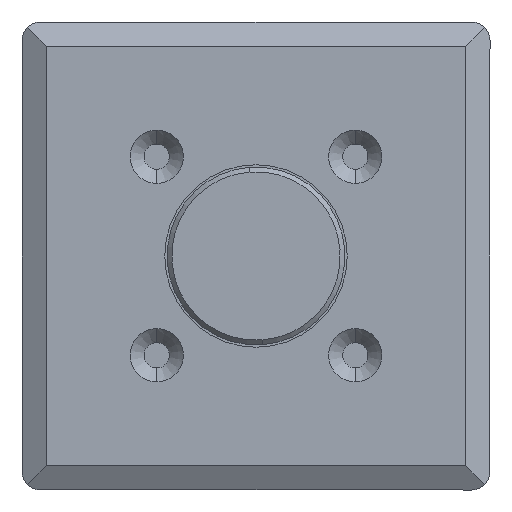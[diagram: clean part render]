
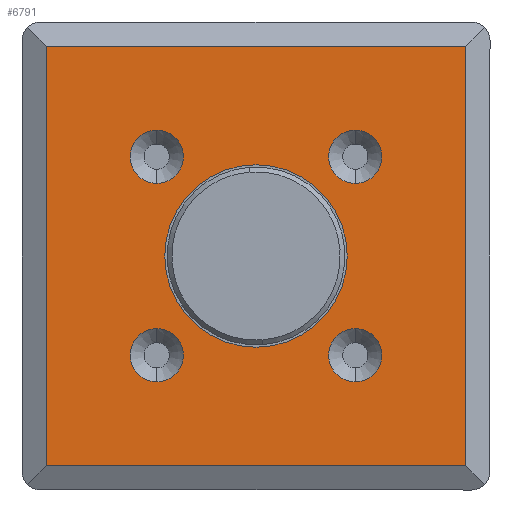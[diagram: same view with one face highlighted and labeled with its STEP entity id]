
A CAD part, left-side view. The second image highlights one B-rep face of the part: STEP entity #6791.
In plain terms, the highlighted planar face has unit normal (-1, 0, 0).
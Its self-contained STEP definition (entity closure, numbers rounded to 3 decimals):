
#44 = VERTEX_POINT ( 'NONE', #6518 ) ;
#362 = VERTEX_POINT ( 'NONE', #26629 ) ;
#421 = DIRECTION ( 'NONE',  ( -1., 0., 0. ) ) ;
#603 = ORIENTED_EDGE ( 'NONE', *, *, #11864, .T. ) ;
#822 = DIRECTION ( 'NONE',  ( 1., 0., 0. ) ) ;
#1482 = AXIS2_PLACEMENT_3D ( 'NONE', #26410, #28679, #26074 ) ;
#1865 = AXIS2_PLACEMENT_3D ( 'NONE', #23551, #11366, #5925 ) ;
#1917 = EDGE_CURVE ( 'NONE', #15085, #19606, #28254, .T. ) ;
#2414 = CARTESIAN_POINT ( 'NONE',  ( -22.8, 10.607, -10.607 ) ) ;
#2520 = ORIENTED_EDGE ( 'NONE', *, *, #20510, .F. ) ;
#2541 = EDGE_LOOP ( 'NONE', ( #32220, #17040, #3063, #4301 ) ) ;
#2597 = DIRECTION ( 'NONE',  ( -1., 0., 0. ) ) ;
#2844 = ORIENTED_EDGE ( 'NONE', *, *, #22571, .T. ) ;
#2878 = ORIENTED_EDGE ( 'NONE', *, *, #6986, .F. ) ;
#3063 = ORIENTED_EDGE ( 'NONE', *, *, #6604, .T. ) ;
#3207 = CARTESIAN_POINT ( 'NONE',  ( -22.8, -10.607, -13.457 ) ) ;
#3395 = CARTESIAN_POINT ( 'NONE',  ( -22.8, 10.607, 13.457 ) ) ;
#3622 = AXIS2_PLACEMENT_3D ( 'NONE', #26294, #8692, #28792 ) ;
#3958 = DIRECTION ( 'NONE',  ( 0., 0., -1. ) ) ;
#4174 = DIRECTION ( 'NONE',  ( 1., 0., 0. ) ) ;
#4301 = ORIENTED_EDGE ( 'NONE', *, *, #29338, .T. ) ;
#4390 = CARTESIAN_POINT ( 'NONE',  ( -22.8, 10.607, 7.757 ) ) ;
#4664 = DIRECTION ( 'NONE',  ( 0., 0., -1. ) ) ;
#4776 = LINE ( 'NONE', #10653, #23081 ) ;
#4998 = VERTEX_POINT ( 'NONE', #29672 ) ;
#5032 = CARTESIAN_POINT ( 'NONE',  ( -22.8, -22.402, 22.402 ) ) ;
#5441 = DIRECTION ( 'NONE',  ( 0., 0., -1. ) ) ;
#5604 = VERTEX_POINT ( 'NONE', #21056 ) ;
#5665 = EDGE_CURVE ( 'NONE', #18312, #29613, #26960, .T. ) ;
#5925 = DIRECTION ( 'NONE',  ( 0., 0., -1. ) ) ;
#6215 = DIRECTION ( 'NONE',  ( -1., 0., 0. ) ) ;
#6518 = CARTESIAN_POINT ( 'NONE',  ( -22.8, 0., 9.75 ) ) ;
#6568 = VERTEX_POINT ( 'NONE', #5032 ) ;
#6604 = EDGE_CURVE ( 'NONE', #6568, #8100, #4776, .T. ) ;
#6791 = ADVANCED_FACE ( 'NONE', ( #10248, #23480, #7907, #11010, #22714, #16456 ), #21126, .T. ) ;
#6986 = EDGE_CURVE ( 'NONE', #44, #29598, #7109, .T. ) ;
#7109 = CIRCLE ( 'NONE', #30290, 9.75 ) ;
#7629 = EDGE_LOOP ( 'NONE', ( #2844, #11804 ) ) ;
#7907 = FACE_BOUND ( 'NONE', #28592, .T. ) ;
#8100 = VERTEX_POINT ( 'NONE', #22134 ) ;
#8133 = DIRECTION ( 'NONE',  ( 0., 0., -1. ) ) ;
#8424 = CARTESIAN_POINT ( 'NONE',  ( -22.8, -10.607, -7.757 ) ) ;
#8582 = ORIENTED_EDGE ( 'NONE', *, *, #22521, .T. ) ;
#8692 = DIRECTION ( 'NONE',  ( 1., 0., 0. ) ) ;
#8833 = CARTESIAN_POINT ( 'NONE',  ( -22.8, -9.75, 0. ) ) ;
#9017 = DIRECTION ( 'NONE',  ( 1., 0., 0. ) ) ;
#9146 = LINE ( 'NONE', #20427, #16518 ) ;
#9931 = DIRECTION ( 'NONE',  ( 1., 0., 0. ) ) ;
#10248 = FACE_OUTER_BOUND ( 'NONE', #2541, .T. ) ;
#10608 = DIRECTION ( 'NONE',  ( 0., 0., -1. ) ) ;
#10653 = CARTESIAN_POINT ( 'NONE',  ( -22.8, -9.75, 22.402 ) ) ;
#11007 = CARTESIAN_POINT ( 'NONE',  ( -22.8, 22.402, -22.402 ) ) ;
#11010 = FACE_BOUND ( 'NONE', #7629, .T. ) ;
#11156 = VERTEX_POINT ( 'NONE', #3207 ) ;
#11161 = EDGE_CURVE ( 'NONE', #4998, #26610, #20613, .T. ) ;
#11366 = DIRECTION ( 'NONE',  ( 1., 0., 0. ) ) ;
#11432 = CARTESIAN_POINT ( 'NONE',  ( -22.8, -22.402, 0. ) ) ;
#11503 = DIRECTION ( 'NONE',  ( 0., 0., -1. ) ) ;
#11804 = ORIENTED_EDGE ( 'NONE', *, *, #12369, .T. ) ;
#11864 = EDGE_CURVE ( 'NONE', #5604, #362, #18374, .T. ) ;
#12369 = EDGE_CURVE ( 'NONE', #29516, #11156, #25330, .T. ) ;
#13103 = EDGE_CURVE ( 'NONE', #19606, #6568, #22623, .T. ) ;
#13839 = CARTESIAN_POINT ( 'NONE',  ( -22.8, 10.607, 10.607 ) ) ;
#14348 = CARTESIAN_POINT ( 'NONE',  ( -22.8, -22.402, -22.402 ) ) ;
#15085 = VERTEX_POINT ( 'NONE', #11007 ) ;
#15218 = AXIS2_PLACEMENT_3D ( 'NONE', #15237, #421, #5441 ) ;
#15237 = CARTESIAN_POINT ( 'NONE',  ( -22.8, 0., 0. ) ) ;
#15238 = DIRECTION ( 'NONE',  ( 0., 0., -1. ) ) ;
#15579 = AXIS2_PLACEMENT_3D ( 'NONE', #20547, #822, #10608 ) ;
#16456 = FACE_BOUND ( 'NONE', #17311, .T. ) ;
#16493 = AXIS2_PLACEMENT_3D ( 'NONE', #30967, #9017, #11503 ) ;
#16518 = VECTOR ( 'NONE', #25291, 1000. ) ;
#16716 = ORIENTED_EDGE ( 'NONE', *, *, #25014, .T. ) ;
#16749 = CIRCLE ( 'NONE', #16493, 2.85 ) ;
#17040 = ORIENTED_EDGE ( 'NONE', *, *, #13103, .T. ) ;
#17311 = EDGE_LOOP ( 'NONE', ( #2520, #2878 ) ) ;
#17399 = CARTESIAN_POINT ( 'NONE',  ( -22.8, 0., 0. ) ) ;
#18312 = VERTEX_POINT ( 'NONE', #3395 ) ;
#18374 = CIRCLE ( 'NONE', #21669, 2.85 ) ;
#18643 = ORIENTED_EDGE ( 'NONE', *, *, #5665, .T. ) ;
#18644 = CIRCLE ( 'NONE', #25075, 2.85 ) ;
#19111 = VECTOR ( 'NONE', #28822, 1000. ) ;
#19411 = CIRCLE ( 'NONE', #3622, 2.85 ) ;
#19606 = VERTEX_POINT ( 'NONE', #14348 ) ;
#20427 = CARTESIAN_POINT ( 'NONE',  ( -22.8, 22.402, 0. ) ) ;
#20510 = EDGE_CURVE ( 'NONE', #29598, #44, #27400, .T. ) ;
#20547 = CARTESIAN_POINT ( 'NONE',  ( -22.8, 10.607, -10.607 ) ) ;
#20613 = CIRCLE ( 'NONE', #15579, 2.85 ) ;
#20691 = DIRECTION ( 'NONE',  ( 0., 1., 0. ) ) ;
#21056 = CARTESIAN_POINT ( 'NONE',  ( -22.8, -10.607, 13.457 ) ) ;
#21126 = PLANE ( 'NONE',  #24694 ) ;
#21240 = DIRECTION ( 'NONE',  ( 0., 0., -1. ) ) ;
#21669 = AXIS2_PLACEMENT_3D ( 'NONE', #25414, #22733, #8133 ) ;
#21960 = ORIENTED_EDGE ( 'NONE', *, *, #11161, .T. ) ;
#22134 = CARTESIAN_POINT ( 'NONE',  ( -22.8, 22.402, 22.402 ) ) ;
#22521 = EDGE_CURVE ( 'NONE', #29613, #18312, #26473, .T. ) ;
#22571 = EDGE_CURVE ( 'NONE', #11156, #29516, #16749, .T. ) ;
#22623 = LINE ( 'NONE', #11432, #19111 ) ;
#22714 = FACE_BOUND ( 'NONE', #28856, .T. ) ;
#22733 = DIRECTION ( 'NONE',  ( 1., 0., 0. ) ) ;
#23081 = VECTOR ( 'NONE', #20691, 1000. ) ;
#23480 = FACE_BOUND ( 'NONE', #27120, .T. ) ;
#23551 = CARTESIAN_POINT ( 'NONE',  ( -22.8, -10.607, -10.607 ) ) ;
#23805 = DIRECTION ( 'NONE',  ( 0., -1., 0. ) ) ;
#24616 = CARTESIAN_POINT ( 'NONE',  ( -22.8, 10.607, -13.457 ) ) ;
#24694 = AXIS2_PLACEMENT_3D ( 'NONE', #8833, #6215, #21240 ) ;
#25014 = EDGE_CURVE ( 'NONE', #26610, #4998, #18644, .T. ) ;
#25075 = AXIS2_PLACEMENT_3D ( 'NONE', #2414, #9931, #15238 ) ;
#25291 = DIRECTION ( 'NONE',  ( 0., 0., -1. ) ) ;
#25330 = CIRCLE ( 'NONE', #1865, 2.85 ) ;
#25414 = CARTESIAN_POINT ( 'NONE',  ( -22.8, -10.607, 10.607 ) ) ;
#25482 = AXIS2_PLACEMENT_3D ( 'NONE', #13839, #4174, #3958 ) ;
#25576 = EDGE_CURVE ( 'NONE', #362, #5604, #19411, .T. ) ;
#26017 = ORIENTED_EDGE ( 'NONE', *, *, #25576, .T. ) ;
#26074 = DIRECTION ( 'NONE',  ( 0., 0., -1. ) ) ;
#26294 = CARTESIAN_POINT ( 'NONE',  ( -22.8, -10.607, 10.607 ) ) ;
#26375 = CARTESIAN_POINT ( 'NONE',  ( -22.8, 0., -9.75 ) ) ;
#26410 = CARTESIAN_POINT ( 'NONE',  ( -22.8, 10.607, 10.607 ) ) ;
#26473 = CIRCLE ( 'NONE', #1482, 2.85 ) ;
#26610 = VERTEX_POINT ( 'NONE', #24616 ) ;
#26629 = CARTESIAN_POINT ( 'NONE',  ( -22.8, -10.607, 7.757 ) ) ;
#26960 = CIRCLE ( 'NONE', #25482, 2.85 ) ;
#27120 = EDGE_LOOP ( 'NONE', ( #26017, #603 ) ) ;
#27400 = CIRCLE ( 'NONE', #15218, 9.75 ) ;
#28254 = LINE ( 'NONE', #28678, #31750 ) ;
#28592 = EDGE_LOOP ( 'NONE', ( #16716, #21960 ) ) ;
#28678 = CARTESIAN_POINT ( 'NONE',  ( -22.8, -9.75, -22.402 ) ) ;
#28679 = DIRECTION ( 'NONE',  ( 1., 0., 0. ) ) ;
#28792 = DIRECTION ( 'NONE',  ( 0., 0., -1. ) ) ;
#28822 = DIRECTION ( 'NONE',  ( 0., 0., 1. ) ) ;
#28856 = EDGE_LOOP ( 'NONE', ( #8582, #18643 ) ) ;
#29338 = EDGE_CURVE ( 'NONE', #8100, #15085, #9146, .T. ) ;
#29516 = VERTEX_POINT ( 'NONE', #8424 ) ;
#29598 = VERTEX_POINT ( 'NONE', #26375 ) ;
#29613 = VERTEX_POINT ( 'NONE', #4390 ) ;
#29672 = CARTESIAN_POINT ( 'NONE',  ( -22.8, 10.607, -7.757 ) ) ;
#30290 = AXIS2_PLACEMENT_3D ( 'NONE', #17399, #2597, #4664 ) ;
#30967 = CARTESIAN_POINT ( 'NONE',  ( -22.8, -10.607, -10.607 ) ) ;
#31750 = VECTOR ( 'NONE', #23805, 1000. ) ;
#32220 = ORIENTED_EDGE ( 'NONE', *, *, #1917, .T. ) ;
